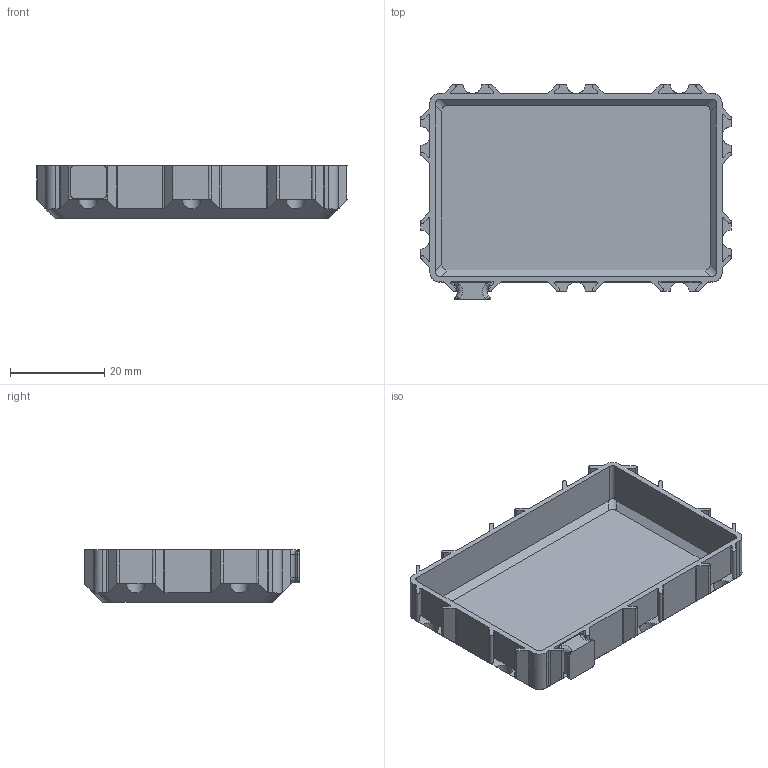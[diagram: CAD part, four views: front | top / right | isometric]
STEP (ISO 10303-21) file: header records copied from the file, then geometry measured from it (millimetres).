
FILE_DESCRIPTION(/* description */ (''),/* implementation_level */ '2;1');
FILE_NAME(/* name */ 'BOX_x03_y02_z010_tx0_ty0.stp',/* time_stamp */ '2024-02-16T08:36:59+01:00',/* author */ ('ott'),/* organization */ (''),/* preprocessor_version */ 'ST-DEVELOPER v19.2',/* originating_system */ 'Autodesk Inventor 2023',/* authorisation */ '');
FILE_SCHEMA (('AUTOMOTIVE_DESIGN { 1 0 10303 214 3 1 1 }'));
Length unit declared in the file: millimetre
Products named in the file (1): BOX_x03_y02_z010_tx0_ty0
Bounding box: 66 x 45.8 x 11.2 mm (x, y, z)
Volume: 5735.1 mm3; surface area: 9769.4 mm2
Topology: 2 solids, 2 shells, 207 faces, 582 edges, 380 vertices
Faces by surface type: plane 111, cylinder 92, torus 4
Entity records: 7056 total; most frequent: CARTESIAN_POINT 1266, DIRECTION 1204, ORIENTED_EDGE 1164, EDGE_CURVE 582, AXIS2_PLACEMENT_3D 422, VERTEX_POINT 380, LINE 360, VECTOR 360
